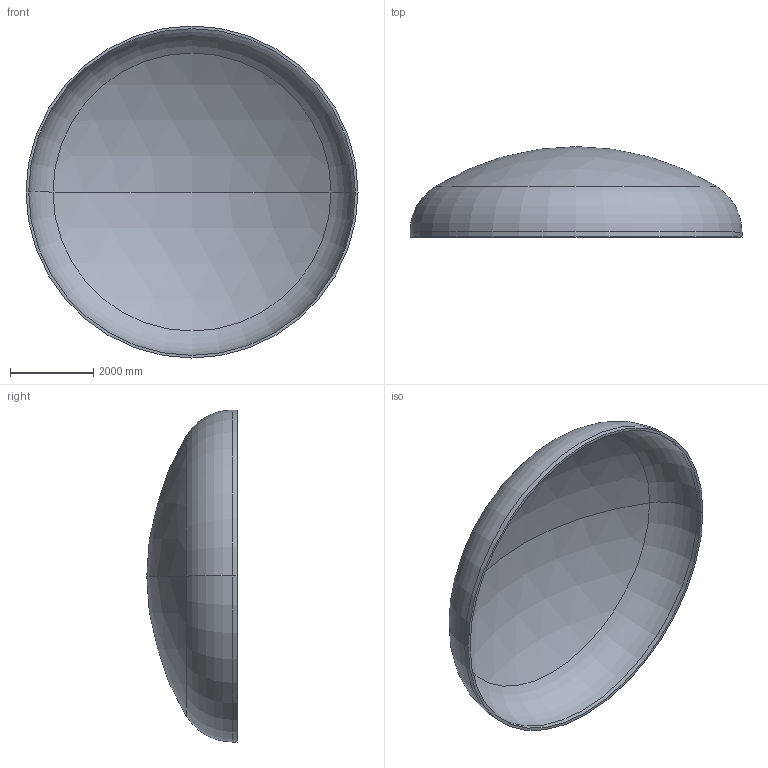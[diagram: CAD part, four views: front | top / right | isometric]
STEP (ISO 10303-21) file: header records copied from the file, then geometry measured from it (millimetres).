
FILE_DESCRIPTION (( 'STEP AP203' ), '1' );
FILE_NAME ('DIN 28013 Korbbogenform_-_Boden DIN 28013 - 8000 x 120 - I - s=64.step', '2016-07-04T11:03:08', ( '' ), ( '' ), 'SwSTEP 2.0', 'SolidWorks 2013', '' );
FILE_SCHEMA (( 'CONFIG_CONTROL_DESIGN' ));
Length unit declared in the file: millimetre
Products named in the file (1): DIN 28013 Korbbogenform_-_Boden DIN 28013 - 8000 x 120 - I - s=64
Bounding box: 8000 x 2178.72 x 8000 mm (x, y, z)
Volume: 4598703521 mm3; surface area: 145313634.9 mm2
Topology: 1 solids, 1 shells, 13 faces, 24 edges, 14 vertices
Faces by surface type: torus 4, cylinder 4, sphere 4, plane 1
Entity records: 407 total; most frequent: DIRECTION 72, CARTESIAN_POINT 52, ORIENTED_EDGE 48, AXIS2_PLACEMENT_3D 34, EDGE_CURVE 24, CIRCLE 20, EDGE_LOOP 14, VERTEX_POINT 14
